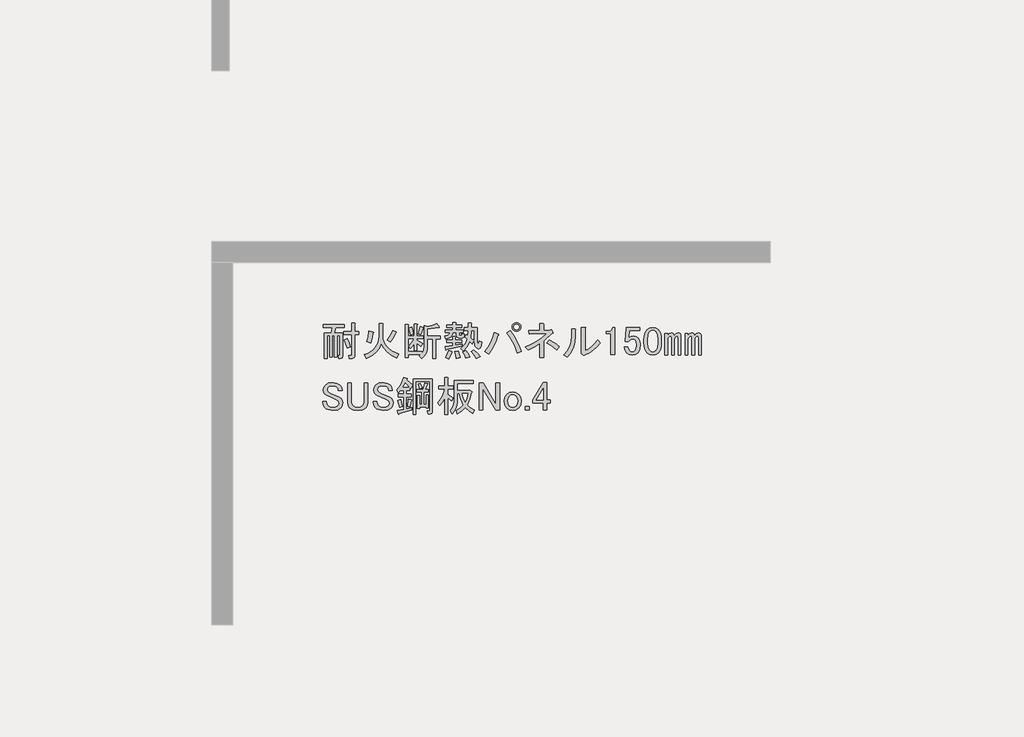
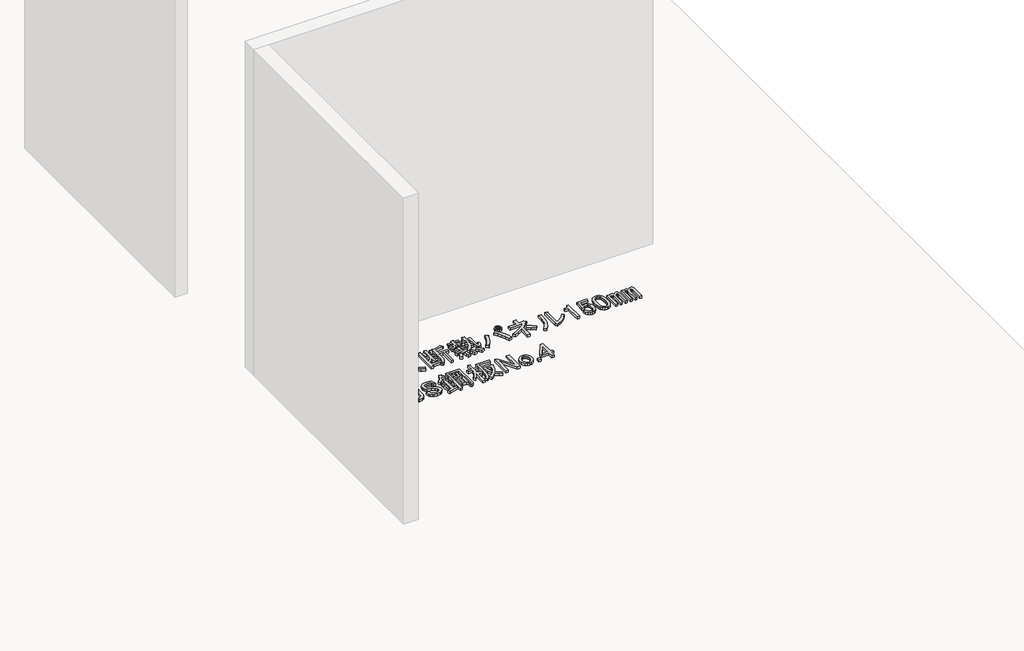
# One storey, part 114 of 117: 1 proxy.
"""IFC4 building model written with IfcOpenShell, lengths in millimetres."""

from ifc_helpers import new_model, si_unit, frame, origin, place, context, project, spatial, polyline, outline, extrude, element, save

model = new_model("IFC4")

# Units and contexts
model_context = context("Model", 3, world=origin())
ifc_project = project(units=[si_unit("LENGTHUNIT", "METRE", prefix="MILLI")], contexts=[model_context])

# Site, building, storey
site = spatial("IfcSite", under=ifc_project)
building = spatial("IfcBuilding", under=site)
storey = spatial("IfcBuildingStorey", under=building, Name="レベル 1", Elevation=500.0)

# Proxy
placement = place(None, origin())
element("IfcBuildingElementProxy", 1, Name="200㎜\u3000MS Pゴシック", ObjectType="200㎜\u3000MS Pゴシック", at=placement, inside=storey, context=model_context, shape_type="SweptSolid", body=[
    extrude(outline(polyline([(72978.5674486, 3229.3142262), (72971.0959694, 3259.7748726), (72960.176115, 3289.0860605), (72982.0158237, 3297.132269), (72994.372501, 3267.5337164), (73001.5566157, 3238.5098931), (72978.5674486, 3229.3142262)])), frame((0.0, 0.0, 500.0), z_axis=(0.0, 0.0, 1.0), x_axis=(1.0, 0.0, 0.0)), (0.0, 0.0, 1.0), 25.0),
    extrude(outline(polyline([(72887.7602388, 3320.121436), (72871.6678219, 3320.121436), (72871.6678219, 3164.9445585), (72852.1270299, 3164.9445585), (72852.1270299, 3320.121436), (72833.7356963, 3320.121436), (72833.7356963, 3152.3005167), (72814.1949043, 3152.3005167), (72814.1949043, 3338.5127697), (72865.9205301, 3338.5127697), (72871.6678219, 3377.5943537), (72804.9992375, 3377.5943537), (72804.9992375, 3399.4340623), (72960.176115, 3399.4340623), (72960.176115, 3377.5943537), (72895.8064473, 3377.5943537), (72885.4613221, 3338.5127697), (72946.3826148, 3338.5127697), (72946.3826148, 3170.6918503), (72942.3595106, 3158.6225376), (72930.2901979, 3154.5994334), (72919.9450727, 3154.5994334), (72915.3472393, 3176.439142), (72922.2439894, 3176.439142), (72925.6923645, 3177.5886004), (72926.8418228, 3181.0369755), (72926.8418228, 3320.121436), (72907.3010308, 3320.121436), (72907.3010308, 3164.9445585), (72887.7602388, 3164.9445585), (72887.7602388, 3320.121436)])), frame((0.0, 0.0, 500.0), z_axis=(0.0, 0.0, 1.0), x_axis=(1.0, 0.0, 0.0)), (0.0, 0.0, 1.0), 25.0),
    extrude(outline(polyline([(72956.72774, 3325.8687278), (72956.72774, 3347.7084365), (73013.0511992, 3347.7084365), (73013.0511992, 3409.7791875), (73034.8909079, 3409.7791875), (73039.7761059, 3407.4802708), (73036.0403663, 3402.8824374), (73036.0403663, 3347.7084365), (73064.7768251, 3347.7084365), (73064.7768251, 3325.8687278), (73036.0403663, 3325.8687278), (73036.0403663, 3172.990767), (73031.4425328, 3159.1972668), (73017.6490326, 3154.5994334), (72994.6598656, 3154.5994334), (72991.2114905, 3176.439142), (73008.4533658, 3176.439142), (73011.9017409, 3177.5886004), (73013.0511992, 3181.0369755), (73013.0511992, 3325.8687278), (72956.72774, 3325.8687278)])), frame((0.0, 0.0, 500.0), z_axis=(0.0, 0.0, 1.0), x_axis=(1.0, 0.0, 0.0)), (0.0, 0.0, 1.0), 25.0),
    extrude(outline(polyline([(73226.8504527, 3261.4990601), (73210.9017181, 3226.6561038), (73187.1941395, 3196.8420278), (73155.7277172, 3172.0568321), (73116.5024509, 3152.3005167), (73102.7089507, 3181.0369755), (73128.032955, 3190.71757), (73149.9804254, 3202.5174784), (73168.5513619, 3216.4367006), (73183.7457645, 3232.4752367), (73195.5636332, 3250.6330866), (73204.0049679, 3270.9102504), (73209.0697688, 3293.3067279), (73210.7580358, 3317.8225193), (73210.7580358, 3408.6297292), (73237.1955779, 3406.3308125), (73240.6439529, 3402.8824374), (73237.1955779, 3397.1351456), (73237.1955779, 3317.8225193), (73238.9916065, 3296.377937), (73244.3796926, 3276.2983364), (73253.3598359, 3257.5837176), (73265.9320367, 3240.2340806), (73282.0962947, 3224.2494254), (73301.8526102, 3209.629752), (73352.1414131, 3184.4853505), (73340.6468295, 3155.7488917), (73301.2060398, 3175.2896837), (73269.0930471, 3199.4283091), (73244.3078514, 3228.1647679), (73226.8504527, 3261.4990601)])), frame((0.0, 0.0, 500.0), z_axis=(0.0, 0.0, 1.0), x_axis=(1.0, 0.0, 0.0)), (0.0, 0.0, 1.0), 25.0),
    extrude(outline(polyline([(73330.3017044, 3337.3633113), (73310.1861832, 3297.9943628), (73293.5190371, 3271.8441853), (73270.5298701, 3286.7871438), (73290.3580266, 3318.3972485), (73308.4619957, 3358.0535617), (73333.7500794, 3345.4095198), (73336.3363607, 3341.6737801), (73330.3017044, 3337.3633113)])), frame((0.0, 0.0, 500.0), z_axis=(0.0, 0.0, 1.0), x_axis=(1.0, 0.0, 0.0)), (0.0, 0.0, 1.0), 25.0),
    extrude(outline(polyline([(73122.2497427, 3276.4420187), (73134.0316908, 3310.6384046), (73137.1927012, 3353.4557283), (73165.92916, 3346.5589781), (73170.5269934, 3342.8232385), (73165.92916, 3338.5127697), (73162.1934204, 3304.0290191), (73150.9862015, 3267.2463519), (73122.2497427, 3276.4420187)])), frame((0.0, 0.0, 500.0), z_axis=(0.0, 0.0, 1.0), x_axis=(1.0, 0.0, 0.0)), (0.0, 0.0, 1.0), 25.0),
    extrude(outline(polyline([(73647.5522095, 3381.0427287), (73645.828022, 3376.4448953), (73638.3565427, 3378.743812), (73561.3428331, 3366.0997701), (73561.3428331, 3316.673061), (73653.2995013, 3316.673061), (73653.2995013, 3294.8333523), (73622.2641258, 3294.8333523), (73622.2641258, 3154.5994334), (73599.2749588, 3154.5994334), (73599.2749588, 3294.8333523), (73561.3428331, 3294.8333523), (73561.3428331, 3245.4066432), (73558.7565518, 3217.6041193), (73550.997708, 3192.8189236), (73538.0663015, 3171.051056), (73519.9623325, 3152.3005167), (73502.7204572, 3171.8413086), (73513.0655823, 3181.0369755), (73423.4078309, 3181.0369755), (73423.4078309, 3159.1972668), (73400.4186638, 3159.1972668), (73400.4186638, 3398.284604), (73422.2583725, 3398.284604), (73427.1435705, 3395.9856873), (73423.4078309, 3391.3878539), (73423.4078309, 3315.5236026), (73465.9377899, 3315.5236026), (73465.9377899, 3402.8824374), (73484.3291235, 3402.8824374), (73489.2143215, 3400.5835207), (73485.4785819, 3395.9856873), (73485.4785819, 3315.5236026), (73529.1579993, 3315.5236026), (73529.1579993, 3297.132269), (73485.4785819, 3297.132269), (73485.4785819, 3287.9366022), (73525.7096242, 3261.4990601), (73511.916124, 3239.6593514), (73485.4785819, 3266.0968935), (73485.4785819, 3213.2218093), (73465.9377899, 3213.2218093), (73465.9377899, 3261.4990601), (73452.7190189, 3241.6709035), (73438.3507895, 3225.8658512), (73425.7067476, 3244.2571848), (73447.5464563, 3268.3958102), (73464.7883316, 3297.132269), (73423.4078309, 3297.132269), (73423.4078309, 3202.8766841), (73521.1117908, 3202.8766841), (73521.1117908, 3189.0831839), (73534.0431973, 3213.2218093), (73538.3536661, 3246.5561015), (73538.3536661, 3391.3878539), (73560.1933748, 3385.6405621), (73596.4013129, 3393.1120414), (73626.8619592, 3406.3308125), (73647.5522095, 3381.0427287)])), frame((0.0, 0.0, 500.0), z_axis=(0.0, 0.0, 1.0), x_axis=(1.0, 0.0, 0.0)), (0.0, 0.0, 1.0), 25.0),
    extrude(outline(polyline([(73493.5247904, 3332.7654779), (73510.7666656, 3385.6405621), (73531.456916, 3379.8932704), (73533.1811035, 3376.7322599), (73529.1579993, 3374.1459786), (73511.916124, 3325.8687278), (73493.5247904, 3332.7654779)])), frame((0.0, 0.0, 500.0), z_axis=(0.0, 0.0, 1.0), x_axis=(1.0, 0.0, 0.0)), (0.0, 0.0, 1.0), 25.0),
    extrude(outline(polyline([(73439.5002478, 3324.7192695), (73426.8562059, 3375.2954369), (73446.3969979, 3382.1921871), (73454.1558418, 3358.0535617), (73459.0410398, 3331.6160196), (73439.5002478, 3324.7192695)])), frame((0.0, 0.0, 500.0), z_axis=(0.0, 0.0, 1.0), x_axis=(1.0, 0.0, 0.0)), (0.0, 0.0, 1.0), 25.0),
    extrude(outline(polyline([(73770.5442532, 3340.8116864), (73745.2561695, 3340.8116864), (73740.6583361, 3323.3542877), (73730.3132109, 3310.0636755), (73714.220794, 3300.9398498), (73692.3810853, 3295.9828107), (73687.7832519, 3315.5236026), (73713.0713356, 3324.1445403), (73720.5428149, 3331.4723373), (73724.5659191, 3340.8116864), (73688.9327102, 3340.8116864), (73688.9327102, 3359.20302), (73742.9572528, 3359.20302), (73742.9572528, 3376.4448953), (73699.2778354, 3376.4448953), (73699.2778354, 3394.8362289), (73742.9572528, 3394.8362289), (73742.9572528, 3413.2275626), (73764.7969614, 3413.2275626), (73769.6821594, 3410.9286459), (73765.9464198, 3406.3308125), (73765.9464198, 3394.8362289), (73808.4763788, 3394.8362289), (73808.4763788, 3376.4448953), (73765.9464198, 3376.4448953), (73765.9464198, 3359.20302), (73818.821504, 3359.20302), (73818.821504, 3340.8116864), (73790.0850452, 3340.8116864), (73790.0850452, 3328.1676445), (73791.5218681, 3322.9950819), (73795.832337, 3321.2708944), (73806.1774621, 3321.2708944), (73809.9132018, 3324.4319049), (73809.6258372, 3333.9149363), (73829.1666292, 3331.6160196), (73826.2929833, 3310.0636755), (73820.9767384, 3304.6755894), (73813.0742122, 3302.8795608), (73788.9355868, 3302.8795608), (73775.1420866, 3307.7647588), (73770.5442532, 3322.4203528), (73770.5442532, 3340.8116864)])), frame((0.0, 0.0, 500.0), z_axis=(0.0, 0.0, 1.0), x_axis=(1.0, 0.0, 0.0)), (0.0, 0.0, 1.0), 25.0),
    extrude(outline(polyline([(73901.5825053, 3358.0535617), (73879.7427966, 3358.0535617), (73875.1449632, 3300.5806441), (73894.6857552, 3282.1893104), (73884.3406301, 3260.3496017), (73868.2482131, 3276.4420187), (73848.9947857, 3238.7972576), (73818.821504, 3206.3250592), (73801.5796287, 3227.0153095), (73816.6662696, 3238.9409399), (73829.7413583, 3254.0275808), (73840.804895, 3272.2752321), (73849.8568795, 3293.683894), (73832.6150042, 3308.6268525), (73840.6612127, 3325.8687278), (73854.4547129, 3315.5236026), (73856.7536296, 3358.0535617), (73829.1666292, 3358.0535617), (73829.1666292, 3376.4448953), (73856.7536296, 3376.4448953), (73856.7536296, 3410.9286459), (73878.5933383, 3410.9286459), (73883.4785363, 3408.6297292), (73879.7427966, 3404.0318957), (73879.7427966, 3376.4448953), (73921.1232973, 3376.4448953), (73921.1232973, 3279.8903937), (73924.5716724, 3255.7517683), (73927.804524, 3253.7402162), (73930.6063287, 3256.9012267), (73934.9167975, 3278.7409354), (73954.4575895, 3271.8441853), (73949.9315973, 3245.0474374), (73942.1009122, 3229.0268616), (73930.9655345, 3223.7824579), (73916.5254639, 3229.3142262), (73909.9879195, 3236.6420232), (73905.318245, 3248.280289), (73901.5825053, 3284.4882271), (73901.5825053, 3358.0535617)])), frame((0.0, 0.0, 500.0), z_axis=(0.0, 0.0, 1.0), x_axis=(1.0, 0.0, 0.0)), (0.0, 0.0, 1.0), 25.0),
    extrude(outline(polyline([(73700.4272937, 3218.9691011), (73698.4157416, 3214.0839031), (73694.680002, 3215.520726), (73688.9327102, 3239.6593514), (73744.1067111, 3247.7055599), (73744.1067111, 3270.6947269), (73700.4272937, 3270.6947269), (73700.4272937, 3289.0860605), (73744.1067111, 3289.0860605), (73744.1067111, 3312.0752276), (73762.4980447, 3312.0752276), (73767.3832427, 3309.7763109), (73763.6475031, 3305.1784775), (73763.6475031, 3289.0860605), (73808.4763788, 3289.0860605), (73808.4763788, 3270.6947269), (73763.6475031, 3270.6947269), (73763.6475031, 3251.1539349), (73814.2236706, 3260.3496017), (73814.2236706, 3244.2571848), (73700.4272937, 3218.9691011)])), frame((0.0, 0.0, 500.0), z_axis=(0.0, 0.0, 1.0), x_axis=(1.0, 0.0, 0.0)), (0.0, 0.0, 1.0), 25.0),
    extrude(outline(polyline([(73898.1341303, 3214.3712677), (73922.8474849, 3193.1062881), (73941.8135477, 3168.3929336), (73915.3760056, 3153.449975), (73896.1225782, 3183.0485276), (73877.4438799, 3202.8766841), (73898.1341303, 3214.3712677)])), frame((0.0, 0.0, 500.0), z_axis=(0.0, 0.0, 1.0), x_axis=(1.0, 0.0, 0.0)), (0.0, 0.0, 1.0), 25.0),
    extrude(outline(polyline([(73839.5117543, 3155.7488917), (73831.1781813, 3180.4622463), (73817.6720456, 3201.7272258), (73838.362296, 3209.7734343), (73855.3168067, 3188.2210902), (73867.0987548, 3164.9445585), (73839.5117543, 3155.7488917)])), frame((0.0, 0.0, 500.0), z_axis=(0.0, 0.0, 1.0), x_axis=(1.0, 0.0, 0.0)), (0.0, 0.0, 1.0), 25.0),
    extrude(outline(polyline([(73738.3594193, 3204.0261425), (73741.8077944, 3199.1409445), (73736.0605026, 3195.979934), (73726.2901067, 3170.4044857), (73715.3702523, 3151.1510583), (73692.3810853, 3162.6456418), (73705.0251271, 3186.209538), (73715.3702523, 3213.2218093), (73738.3594193, 3204.0261425)])), frame((0.0, 0.0, 500.0), z_axis=(0.0, 0.0, 1.0), x_axis=(1.0, 0.0, 0.0)), (0.0, 0.0, 1.0), 25.0),
    extrude(outline(polyline([(73783.1882951, 3208.6239759), (73793.2460557, 3181.32434), (73798.1312537, 3159.1972668), (73769.3947949, 3153.449975), (73766.8085136, 3175.0023191), (73759.0496697, 3205.1756008), (73783.1882951, 3208.6239759)])), frame((0.0, 0.0, 500.0), z_axis=(0.0, 0.0, 1.0), x_axis=(1.0, 0.0, 0.0)), (0.0, 0.0, 1.0), 25.0),
    extrude(outline(polyline([(74206.1889686, 3350.0073532), (74193.5449268, 3352.3062699), (74183.1998016, 3359.20302), (74176.3030515, 3369.5481452), (74174.0041348, 3382.1921871), (74176.3030515, 3394.8362289), (74183.1998016, 3405.1813541), (74193.5449268, 3412.0781042), (74206.1889686, 3414.3770209), (74218.8330105, 3412.0781042), (74229.1781357, 3405.1813541), (74236.0748858, 3394.8362289), (74238.3738025, 3382.1921871), (74236.0748858, 3369.5481452), (74229.1781357, 3359.20302), (74218.8330105, 3352.3062699), (74206.1889686, 3350.0073532)]), holes=[polyline([(74206.1889686, 3361.5019367), (74214.5225417, 3362.9387597), (74221.1319272, 3367.2492285), (74225.442396, 3373.858614), (74226.879219, 3382.1921871), (74225.442396, 3390.5257601), (74221.1319272, 3397.1351456), (74214.5225417, 3401.4456145), (74206.1889686, 3402.8824374), (74197.8553956, 3401.4456145), (74191.2460101, 3397.1351456), (74186.9355412, 3390.5257601), (74185.4987183, 3382.1921871), (74186.9355412, 3373.858614), (74191.2460101, 3367.2492285), (74197.8553956, 3362.9387597), (74206.1889686, 3361.5019367)])]), frame((0.0, 0.0, 500.0), z_axis=(0.0, 0.0, 1.0), x_axis=(1.0, 0.0, 0.0)), (0.0, 0.0, 1.0), 25.0),
    extrude(outline(polyline([(74160.2106345, 3355.754645), (74186.8637001, 3319.0438188), (74209.3499791, 3281.3272167), (74227.6694716, 3242.6048384), (74241.8221775, 3202.8766841), (74210.786802, 3192.531559), (74195.3409554, 3235.6362472), (74177.7398744, 3274.143102), (74157.983559, 3308.0521234), (74136.0720092, 3337.3633113), (74160.2106345, 3355.754645)])), frame((0.0, 0.0, 500.0), z_axis=(0.0, 0.0, 1.0), x_axis=(1.0, 0.0, 0.0)), (0.0, 0.0, 1.0), 25.0),
    extrude(outline(polyline([(74072.8517998, 3329.3171029), (74076.874904, 3323.8571757), (74070.5528831, 3318.9719777), (74058.6272527, 3283.5542922), (74043.5406118, 3249.717112), (74025.2929605, 3217.460437), (74003.8842987, 3186.7842672), (73977.4467566, 3204.0261425), (74000.6514471, 3235.4925649), (74019.689351, 3268.9705394), (74034.5604684, 3304.460066), (74045.2647993, 3341.9611447), (74072.8517998, 3329.3171029)])), frame((0.0, 0.0, 500.0), z_axis=(0.0, 0.0, 1.0), x_axis=(1.0, 0.0, 0.0)), (0.0, 0.0, 1.0), 25.0),
    extrude(outline(polyline([(74449.8741393, 3360.3524784), (74456.7708894, 3362.6513951), (74469.4149312, 3345.4095198), (74470.5643896, 3339.3748634), (74464.8170978, 3337.3633113), (74401.5968885, 3281.0398521), (74401.5968885, 3160.3467251), (74375.1593464, 3160.3467251), (74375.1593464, 3262.6485184), (74334.9283041, 3238.5098931), (74290.0994283, 3216.6701844), (74270.5586363, 3237.3604347), (74316.1059235, 3256.8293855), (74357.3427419, 3279.6030291), (74394.2690915, 3305.6813655), (74426.8849722, 3335.0643946), (74296.9961784, 3329.3171029), (74293.5478034, 3354.6051866), (74375.1593464, 3356.9041033), (74375.1593464, 3408.6297292), (74398.1485134, 3408.6297292), (74404.1831698, 3405.1813541), (74401.5968885, 3399.4340623), (74401.5968885, 3358.0535617), (74449.8741393, 3360.3524784)])), frame((0.0, 0.0, 500.0), z_axis=(0.0, 0.0, 1.0), x_axis=(1.0, 0.0, 0.0)), (0.0, 0.0, 1.0), 25.0),
    extrude(outline(polyline([(74495.8524733, 3216.6701844), (74458.7824415, 3245.9813723), (74425.7355139, 3267.2463519), (74442.9773892, 3289.0860605), (74481.7716085, 3265.8095289), (74515.3932653, 3239.6593514), (74495.8524733, 3216.6701844)])), frame((0.0, 0.0, 500.0), z_axis=(0.0, 0.0, 1.0), x_axis=(1.0, 0.0, 0.0)), (0.0, 0.0, 1.0), 25.0),
    extrude(outline(polyline([(74702.8469334, 3209.7734343), (74727.6321291, 3221.9864292), (74751.4115488, 3239.0846222), (74774.1851924, 3261.0680132), (74795.9530599, 3287.9366022), (74812.0454768, 3266.0968935), (74788.7689452, 3238.2943696), (74762.6187677, 3214.6586322), (74733.5949443, 3195.1896814), (74701.697475, 3179.8875171), (74692.5018082, 3175.2896837), (74674.1104746, 3189.0831839), (74676.4093913, 3194.8304757), (74676.4093913, 3379.8932704), (74700.5480167, 3379.8932704), (74706.2953084, 3376.4448953), (74702.8469334, 3370.6976035), (74702.8469334, 3209.7734343)])), frame((0.0, 0.0, 500.0), z_axis=(0.0, 0.0, 1.0), x_axis=(1.0, 0.0, 0.0)), (0.0, 0.0, 1.0), 25.0),
    extrude(outline(polyline([(74548.8195142, 3178.7380587), (74573.9639157, 3207.9774056), (74591.9242024, 3240.5214452), (74602.7003745, 3276.3701775), (74606.2924318, 3315.5236026), (74606.2924318, 3367.2492285), (74630.4310572, 3367.2492285), (74636.178349, 3363.8008534), (74632.7299739, 3358.0535617), (74632.7299739, 3316.673061), (74628.9223931, 3270.9102504), (74617.4996507, 3230.17632), (74598.4617468, 3194.4712699), (74571.8086812, 3163.7951002), (74548.8195142, 3178.7380587)])), frame((0.0, 0.0, 500.0), z_axis=(0.0, 0.0, 1.0), x_axis=(1.0, 0.0, 0.0)), (0.0, 0.0, 1.0), 25.0),
    extrude(outline(polyline([(74891.3581031, 3356.9041033), (74899.4043116, 3367.8239577), (74902.8526866, 3379.8932704), (74916.6461869, 3379.8932704), (74916.6461869, 3181.0369755), (74890.2086448, 3181.0369755), (74890.2086448, 3333.9149363), (74855.7248942, 3333.9149363), (74855.7248942, 3347.7084365), (74866.0700194, 3347.7084365), (74880.4382488, 3350.0073532), (74891.3581031, 3356.9041033)])), frame((0.0, 0.0, 500.0), z_axis=(0.0, 0.0, 1.0), x_axis=(1.0, 0.0, 0.0)), (0.0, 0.0, 1.0), 25.0),
    extrude(outline(polyline([(75000.5566466, 3376.4448953), (75099.4100648, 3376.4448953), (75099.4100648, 3354.6051866), (75022.3963552, 3354.6051866), (75022.3963552, 3351.1568116), (75018.9479802, 3308.6268525), (75017.7985218, 3301.7301024), (75033.3162096, 3312.0752276), (75049.9833557, 3315.5236026), (75070.9609706, 3311.787863), (75087.9154813, 3300.5806441), (75099.984794, 3280.7524875), (75104.0078982, 3253.4528516), (75098.8353357, 3218.9691011), (75092.3696324, 3205.1756008), (75083.3176479, 3193.6810173), (75065.2136789, 3181.6117046), (75043.0866056, 3177.5886004), (75022.1089907, 3181.32434), (75005.15448, 3192.531559), (74993.0851673, 3211.2102572), (74986.7631463, 3237.3604347), (75013.2006884, 3237.3604347), (75017.2237927, 3218.6817365), (75024.695272, 3206.3250592), (75032.4541158, 3201.1524966), (75041.9371472, 3199.4283091), (75054.2938245, 3201.4398612), (75063.7768559, 3207.4745175), (75073.2598873, 3224.4290282), (75076.4208978, 3250.0044766), (75073.8346165, 3274.143102), (75066.0757726, 3289.0860605), (75058.6042933, 3294.2586231), (75049.9833557, 3295.9828107), (75037.0519492, 3293.3965294), (75025.8447303, 3285.6376855), (75016.6490635, 3275.2925603), (74993.6598964, 3275.2925603), (74994.8093548, 3283.3387688), (75000.5566466, 3371.8470619), (75000.5566466, 3376.4448953)])), frame((0.0, 0.0, 500.0), z_axis=(0.0, 0.0, 1.0), x_axis=(1.0, 0.0, 0.0)), (0.0, 0.0, 1.0), 25.0),
    extrude(outline(polyline([(75129.295982, 3290.2355189), (75130.7328049, 3313.7994151), (75135.0432737, 3333.9149363), (75142.2273884, 3350.5820824), (75152.285149, 3363.8008534), (75170.3891181, 3375.8701661), (75192.5161914, 3379.8932704), (75214.6432646, 3375.8701661), (75232.7472337, 3363.8008534), (75242.8049943, 3350.5820824), (75249.989109, 3333.9149363), (75254.2995778, 3313.7994151), (75255.7364007, 3290.2355189), (75255.7364007, 3267.2463519), (75254.2995778, 3244.1853437), (75249.989109, 3224.4290282), (75242.8049943, 3207.9774056), (75232.7472337, 3194.8304757), (75214.6432646, 3182.761163), (75192.5161914, 3178.7380587), (75170.3891181, 3182.761163), (75152.285149, 3194.8304757), (75142.2273884, 3207.9774056), (75135.0432737, 3224.4290282), (75130.7328049, 3244.1853437), (75129.295982, 3267.2463519), (75129.295982, 3290.2355189)]), holes=[polyline([(75192.5161914, 3358.0535617), (75181.596337, 3355.754645), (75171.825941, 3348.8578948), (75165.2883966, 3339.7340692), (75160.6187221, 3327.3055507), (75156.8829824, 3292.5344356), (75156.8829824, 3266.0968935), (75160.9060867, 3231.9005075), (75165.934967, 3219.3283068), (75172.9753994, 3209.7734343), (75182.4584308, 3202.8766841), (75192.5161914, 3200.5777674), (75203.4360457, 3202.8766841), (75213.2064417, 3209.7734343), (75219.7439861, 3218.8972599), (75224.4136606, 3231.3257784), (75228.1494003, 3266.0968935), (75228.1494003, 3292.5344356), (75224.4136606, 3327.3055507), (75219.7439861, 3339.7340692), (75213.2064417, 3348.8578948), (75203.4360457, 3355.754645), (75192.5161914, 3358.0535617)])]), frame((0.0, 0.0, 500.0), z_axis=(0.0, 0.0, 1.0), x_axis=(1.0, 0.0, 0.0)), (0.0, 0.0, 1.0), 25.0),
    extrude(outline(polyline([(75522.4107384, 3339.662228), (75530.7443114, 3338.2254051), (75537.353697, 3333.9149363), (75542.5262595, 3325.2939986), (75544.2504471, 3313.2246859), (75544.2504471, 3178.7380587), (75524.7096551, 3178.7380587), (75524.7096551, 3302.8795608), (75522.1233738, 3312.3625922), (75514.3645299, 3315.5236026), (75504.0194048, 3310.9257692), (75497.9847484, 3302.3048316), (75495.9731963, 3292.5344356), (75495.9731963, 3178.7380587), (75476.4324043, 3178.7380587), (75476.4324043, 3302.8795608), (75473.846123, 3312.3625922), (75466.0872791, 3315.5236026), (75455.742154, 3310.9257692), (75449.7074976, 3302.3048316), (75447.6959455, 3292.5344356), (75447.6959455, 3178.7380587), (75428.1551535, 3178.7380587), (75428.1551535, 3336.213853), (75447.6959455, 3336.213853), (75447.6959455, 3318.9719777), (75459.7652582, 3334.4896654), (75472.9840292, 3339.662228), (75482.1796961, 3338.2254051), (75489.0764462, 3333.9149363), (75495.9731963, 3320.121436), (75508.9046028, 3334.77703), (75522.4107384, 3339.662228)])), frame((0.0, 0.0, 500.0), z_axis=(0.0, 0.0, 1.0), x_axis=(1.0, 0.0, 0.0)), (0.0, 0.0, 1.0), 25.0),
    extrude(outline(polyline([(75300.5652764, 3178.7380587), (75281.0244845, 3178.7380587), (75281.0244845, 3336.213853), (75300.5652764, 3336.213853), (75300.5652764, 3318.9719777), (75312.6345891, 3334.4896654), (75325.8533602, 3339.662228), (75335.049027, 3338.2254051), (75341.9457771, 3333.9149363), (75348.8425272, 3320.121436), (75361.7739337, 3334.77703), (75375.2800693, 3339.662228), (75383.6136424, 3338.2254051), (75390.2230279, 3333.9149363), (75395.3955905, 3325.2939986), (75397.119778, 3313.2246859), (75397.119778, 3178.7380587), (75377.578986, 3178.7380587), (75377.578986, 3302.8795608), (75374.9927047, 3312.3625922), (75367.2338609, 3315.5236026), (75356.8887357, 3310.9257692), (75350.8540793, 3302.3048316), (75348.8425272, 3292.5344356), (75348.8425272, 3178.7380587), (75329.3017352, 3178.7380587), (75329.3017352, 3302.8795608), (75326.715454, 3312.3625922), (75318.9566101, 3315.5236026), (75308.6114849, 3310.9257692), (75302.5768286, 3302.3048316), (75300.5652764, 3292.5344356), (75300.5652764, 3178.7380587)])), frame((0.0, 0.0, 500.0), z_axis=(0.0, 0.0, 1.0), x_axis=(1.0, 0.0, 0.0)), (0.0, 0.0, 1.0), 25.0),
    extrude(outline(polyline([(72807.2981542, 2924.7192695), (72811.3212584, 2945.1221552), (72823.3905711, 2962.6513951), (72843.7934569, 2974.7207078), (72872.8172803, 2978.743812), (72904.1400204, 2974.1459786), (72926.8418228, 2960.3524784), (72938.9111355, 2942.8232385), (72942.9342397, 2922.4203528), (72916.4966976, 2922.4203528), (72914.1977809, 2935.0643946), (72907.3010308, 2945.4095198), (72894.0822598, 2953.1683637), (72875.116197, 2955.754645), (72854.7133112, 2953.4557283), (72841.7819048, 2946.5589781), (72835.7472484, 2937.9380405), (72833.7356963, 2928.1676445), (72838.3335297, 2913.2246859), (72859.02378, 2901.7301024), (72918.7956143, 2875.2925603), (72936.0374896, 2863.7979768), (72945.520521, 2850.0044766), (72948.6815315, 2833.9120596), (72944.6584273, 2812.6470801), (72932.5891146, 2794.8304757), (72922.6031951, 2787.2871552), (72909.8873121, 2781.8990692), (72876.2656553, 2777.5886004), (72842.6439985, 2782.761163), (72829.0660217, 2789.2268662), (72817.6432794, 2798.2788507), (72806.4360604, 2816.6701844), (72802.7003208, 2841.9582681), (72829.1378629, 2841.9582681), (72831.4367796, 2824.1416637), (72838.3335297, 2812.072351), (72854.4259466, 2802.5893196), (72877.4151137, 2799.4283091), (72898.3927286, 2802.301955), (72913.0483226, 2810.9228926), (72919.9450727, 2820.1185594), (72922.2439894, 2829.3142262), (72920.5198019, 2838.7972576), (72915.3472393, 2846.5561015), (72896.9559057, 2858.050685), (72867.0699885, 2871.8441853), (72833.7356963, 2886.7871438), (72817.6432794, 2897.132269), (72809.8844355, 2909.2015817), (72807.2981542, 2924.7192695)])), frame((0.0, 0.0, 500.0), z_axis=(0.0, 0.0, 1.0), x_axis=(1.0, 0.0, 0.0)), (0.0, 0.0, 1.0), 25.0),
    extrude(outline(polyline([(72982.7054987, 2976.4448953), (73009.1430408, 2976.4448953), (73009.1430408, 2838.5098931), (73011.7293221, 2823.8542991), (73019.488166, 2812.072351), (73035.0058537, 2802.5893196), (73056.2708332, 2799.4283091), (73077.5358128, 2802.5893196), (73093.0535005, 2812.072351), (73100.8123444, 2823.8542991), (73103.3986257, 2838.5098931), (73103.3986257, 2976.4448953), (73129.8361678, 2976.4448953), (73129.8361678, 2837.3604347), (73125.8130635, 2814.3712677), (73113.7437508, 2795.979934), (73103.2549434, 2787.9337256), (73090.1798546, 2782.1864338), (73056.2708332, 2777.5886004), (73022.3618119, 2782.1864338), (73009.2867231, 2787.9337256), (72998.7979156, 2795.979934), (72986.7286029, 2814.3712677), (72982.7054987, 2837.3604347), (72982.7054987, 2976.4448953)])), frame((0.0, 0.0, 500.0), z_axis=(0.0, 0.0, 1.0), x_axis=(1.0, 0.0, 0.0)), (0.0, 0.0, 1.0), 25.0),
    extrude(outline(polyline([(73172.1822135, 2924.7192695), (73176.2053177, 2945.1221552), (73188.2746304, 2962.6513951), (73208.6775161, 2974.7207078), (73237.7013395, 2978.743812), (73269.0240796, 2974.1459786), (73291.7258821, 2960.3524784), (73303.7951948, 2942.8232385), (73307.818299, 2922.4203528), (73281.3807569, 2922.4203528), (73279.0818402, 2935.0643946), (73272.1850901, 2945.4095198), (73258.966319, 2953.1683637), (73240.0002562, 2955.754645), (73219.5973705, 2953.4557283), (73206.665964, 2946.5589781), (73200.6313077, 2937.9380405), (73198.6197556, 2928.1676445), (73203.217589, 2913.2246859), (73223.9078393, 2901.7301024), (73283.6796736, 2875.2925603), (73300.9215489, 2863.7979768), (73310.4045803, 2850.0044766), (73313.5655908, 2833.9120596), (73309.5424865, 2812.6470801), (73297.4731738, 2794.8304757), (73287.4872544, 2787.2871552), (73274.7713714, 2781.8990692), (73241.1497146, 2777.5886004), (73207.5280578, 2782.761163), (73193.950081, 2789.2268662), (73182.5273386, 2798.2788507), (73171.3201197, 2816.6701844), (73167.5843801, 2841.9582681), (73194.0219222, 2841.9582681), (73196.3208389, 2824.1416637), (73203.217589, 2812.072351), (73219.3100059, 2802.5893196), (73242.2991729, 2799.4283091), (73263.2767879, 2802.301955), (73277.9323819, 2810.9228926), (73284.829132, 2820.1185594), (73287.1280487, 2829.3142262), (73285.4038611, 2838.7972576), (73280.2312986, 2846.5561015), (73261.8399649, 2858.050685), (73231.9540478, 2871.8441853), (73198.6197556, 2886.7871438), (73182.5273386, 2897.132269), (73174.7684948, 2909.2015817), (73172.1822135, 2924.7192695)])), frame((0.0, 0.0, 500.0), z_axis=(0.0, 0.0, 1.0), x_axis=(1.0, 0.0, 0.0)), (0.0, 0.0, 1.0), 25.0),
    extrude(outline(polyline([(73441.8451429, 2937.3633113), (73400.4646422, 2981.0427287), (73378.6249335, 2941.9611447), (73433.7989344, 2941.9611447), (73433.7989344, 2923.5698111), (73407.3613923, 2923.5698111), (73407.3613923, 2894.8333523), (73445.2935179, 2894.8333523), (73445.2935179, 2876.4420187), (73407.3613923, 2876.4420187), (73407.3613923, 2789.0831839), (73446.4429763, 2799.4283091), (73448.741893, 2779.8875171), (73356.7852248, 2754.5994334), (73354.4863081, 2748.8521416), (73349.8884747, 2752.3005167), (73342.9917246, 2775.2896837), (73387.8206003, 2784.4853505), (73387.8206003, 2876.4420187), (73349.8884747, 2876.4420187), (73349.8884747, 2894.8333523), (73387.8206003, 2894.8333523), (73387.8206003, 2923.5698111), (73365.9808916, 2923.5698111), (73351.037933, 2905.1784775), (73338.3938912, 2925.8687278), (73366.5556208, 2963.5134888), (73391.2689754, 3014.3770209), (73413.1086841, 3008.6297292), (73416.5570591, 3004.8939895), (73410.8097674, 3002.8824374), (73409.660309, 2999.4340623), (73454.4891847, 2961.5019367), (73441.8451429, 2937.3633113)])), frame((0.0, 0.0, 500.0), z_axis=(0.0, 0.0, 1.0), x_axis=(1.0, 0.0, 0.0)), (0.0, 0.0, 1.0), 25.0),
    extrude(outline(polyline([(73509.6631856, 2974.1459786), (73516.8473003, 2958.9156554), (73522.3072275, 2938.5127697), (73505.0653522, 2932.7654779), (73493.5707687, 2969.5481452), (73509.6631856, 2974.1459786)])), frame((0.0, 0.0, 500.0), z_axis=(0.0, 0.0, 1.0), x_axis=(1.0, 0.0, 0.0)), (0.0, 0.0, 1.0), 25.0),
    extrude(outline(polyline([(73562.5382698, 2972.9965202), (73565.1245511, 2969.5481452), (73559.0898948, 2966.0997701), (73546.4458529, 2928.1676445), (73567.1361032, 2928.1676445), (73567.1361032, 2909.7763109), (73536.1007277, 2909.7763109), (73536.1007277, 2821.2680178), (73551.0436863, 2821.2680178), (73551.0436863, 2889.0860605), (73567.1361032, 2889.0860605), (73567.1361032, 2794.8304757), (73551.0436863, 2794.8304757), (73551.0436863, 2802.8766841), (73505.0653522, 2802.8766841), (73505.0653522, 2790.2326423), (73488.9729353, 2790.2326423), (73488.9729353, 2886.7871438), (73505.0653522, 2886.7871438), (73505.0653522, 2821.2680178), (73520.0083108, 2821.2680178), (73520.0083108, 2909.7763109), (73484.3751019, 2909.7763109), (73484.3751019, 2928.1676445), (73530.353436, 2928.1676445), (73540.6985611, 2977.5943537), (73562.5382698, 2972.9965202)])), frame((0.0, 0.0, 500.0), z_axis=(0.0, 0.0, 1.0), x_axis=(1.0, 0.0, 0.0)), (0.0, 0.0, 1.0), 25.0),
    extrude(outline(polyline([(73456.7881014, 3006.3308125), (73597.0220204, 3006.3308125), (73597.0220204, 2766.0940169), (73593.2862807, 2754.8867979), (73582.0790618, 2751.1510583), (73565.9866449, 2751.1510583), (73561.3888115, 2772.990767), (73572.883395, 2772.990767), (73576.33177, 2774.1402253), (73577.4812284, 2777.5886004), (73577.4812284, 2987.9394788), (73476.3288934, 2987.9394788), (73476.3288934, 2748.8521416), (73456.7881014, 2748.8521416), (73456.7881014, 3006.3308125)])), frame((0.0, 0.0, 500.0), z_axis=(0.0, 0.0, 1.0), x_axis=(1.0, 0.0, 0.0)), (0.0, 0.0, 1.0), 25.0),
    extrude(outline(polyline([(73445.2935179, 2858.050685), (73447.8797992, 2854.8896746), (73444.1440596, 2852.3033933), (73436.0978511, 2805.1756008), (73417.7065175, 2807.4745175), (73423.4538092, 2861.4990601), (73445.2935179, 2858.050685)])), frame((0.0, 0.0, 500.0), z_axis=(0.0, 0.0, 1.0), x_axis=(1.0, 0.0, 0.0)), (0.0, 0.0, 1.0), 25.0),
    extrude(outline(polyline([(73368.2798083, 2856.9012267), (73379.7743918, 2805.1756008), (73359.0841415, 2799.4283091), (73347.589558, 2851.1539349), (73368.2798083, 2856.9012267)])), frame((0.0, 0.0, 500.0), z_axis=(0.0, 0.0, 1.0), x_axis=(1.0, 0.0, 0.0)), (0.0, 0.0, 1.0), 25.0),
    extrude(outline(polyline([(73768.2913148, 2777.5886004), (73797.0277736, 2794.8304757), (73818.8674823, 2816.6701844), (73801.0508779, 2858.6254142), (73791.2804819, 2899.4311857), (73778.63644, 2899.4311857), (73778.63644, 2875.2925603), (73776.193841, 2833.5528539), (73768.866044, 2799.1409445), (73756.653049, 2772.0568321), (73739.554856, 2752.3005167), (73725.7613558, 2775.2896837), (73738.8364446, 2792.6752413), (73748.1757937, 2814.9459968), (73753.7794031, 2842.1019504), (73755.647273, 2874.143102), (73755.647273, 2994.8362289), (73892.4328169, 2994.8362289), (73892.4328169, 2972.9965202), (73778.63644, 2972.9965202), (73778.63644, 2921.2708944), (73857.9490663, 2921.2708944), (73863.6963581, 2927.0181862), (73883.23715, 2913.2246859), (73884.673973, 2909.4889463), (73879.788775, 2905.1784775), (73867.4320977, 2858.6254142), (73848.7533995, 2817.8196427), (73867.7194623, 2799.4283091), (73899.329567, 2781.0369755), (73890.1339002, 2756.8983501), (73862.2595351, 2772.990767), (73833.8104409, 2798.2788507), (73809.3844509, 2773.8528608), (73777.4869817, 2753.449975), (73768.2913148, 2777.5886004)]), holes=[polyline([(73813.1201906, 2899.4311857), (73821.166399, 2866.3842581), (73833.8104409, 2838.5098931), (73846.4544828, 2864.6600706), (73854.5006912, 2899.4311857), (73813.1201906, 2899.4311857)])]), frame((0.0, 0.0, 500.0), z_axis=(0.0, 0.0, 1.0), x_axis=(1.0, 0.0, 0.0)), (0.0, 0.0, 1.0), 25.0),
    extrude(outline(polyline([(73685.5303135, 2748.8521416), (73685.5303135, 2868.3958102), (73667.713709, 2834.1994242), (73648.7476462, 2812.072351), (73637.2530627, 2832.7626013), (73654.494938, 2855.4644037), (73668.2884382, 2879.8903937), (73678.6335634, 2906.0405712), (73685.5303135, 2933.9149363), (73644.1498128, 2933.9149363), (73644.1498128, 2955.754645), (73685.5303135, 2955.754645), (73685.5303135, 3015.5264793), (73707.3700222, 3015.5264793), (73712.2552202, 3013.2275626), (73708.5194805, 3008.6297292), (73708.5194805, 2955.754645), (73746.4516061, 2955.754645), (73746.4516061, 2933.9149363), (73708.5194805, 2933.9149363), (73708.5194805, 2893.683894), (73746.4516061, 2867.2463519), (73736.106481, 2844.2571848), (73708.5194805, 2867.2463519), (73708.5194805, 2748.8521416), (73685.5303135, 2748.8521416)])), frame((0.0, 0.0, 500.0), z_axis=(0.0, 0.0, 1.0), x_axis=(1.0, 0.0, 0.0)), (0.0, 0.0, 1.0), 25.0),
    extrude(outline(polyline([(73936.1122342, 2976.4448953), (73964.848693, 2976.4448953), (74056.8053612, 2821.2680178), (74056.8053612, 2976.4448953), (74083.2429033, 2976.4448953), (74083.2429033, 2779.8875171), (74054.5064445, 2779.8875171), (73962.5497763, 2935.0643946), (73962.5497763, 2779.8875171), (73936.1122342, 2779.8875171), (73936.1122342, 2976.4448953)])), frame((0.0, 0.0, 500.0), z_axis=(0.0, 0.0, 1.0), x_axis=(1.0, 0.0, 0.0)), (0.0, 0.0, 1.0), 25.0),
    extrude(outline(polyline([(74116.3932822, 2844.2571848), (74121.2784802, 2871.5568207), (74135.9340742, 2893.683894), (74155.1875015, 2906.6153004), (74178.4640332, 2910.9257692), (74201.7405648, 2906.6153004), (74220.9939922, 2893.683894), (74235.6495862, 2871.5568207), (74240.5347842, 2844.2571848), (74235.6495862, 2816.957549), (74220.9939922, 2794.8304757), (74201.7405648, 2781.8990692), (74178.4640332, 2777.5886004), (74155.1875015, 2781.8990692), (74135.9340742, 2794.8304757), (74121.2784802, 2816.957549), (74116.3932822, 2844.2571848)]), holes=[polyline([(74178.4640332, 2890.2355189), (74165.8199913, 2887.9366022), (74155.4748661, 2881.0398521), (74145.129741, 2864.9474352), (74141.6813659, 2844.2571848), (74144.8423764, 2823.8542991), (74154.3254078, 2808.6239759), (74165.5326267, 2800.865132), (74178.4640332, 2798.2788507), (74191.3954396, 2800.865132), (74202.6026586, 2808.6239759), (74212.08569, 2823.8542991), (74215.2467004, 2844.2571848), (74211.7983254, 2864.9474352), (74201.4532002, 2881.0398521), (74191.1080751, 2887.9366022), (74178.4640332, 2890.2355189)])]), frame((0.0, 0.0, 500.0), z_axis=(0.0, 0.0, 1.0), x_axis=(1.0, 0.0, 0.0)), (0.0, 0.0, 1.0), 25.0),
    extrude(outline(polyline([(74271.064398, 2805.1756008), (74297.5019401, 2805.1756008), (74297.5019401, 2779.8875171), (74271.064398, 2779.8875171), (74271.064398, 2805.1756008)])), frame((0.0, 0.0, 500.0), z_axis=(0.0, 0.0, 1.0), x_axis=(1.0, 0.0, 0.0)), (0.0, 0.0, 1.0), 25.0),
    extrude(outline(polyline([(74400.0336251, 2978.743812), (74426.4711672, 2978.743812), (74426.4711672, 2852.3033933), (74450.6097926, 2852.3033933), (74450.6097926, 2830.4636846), (74426.4711672, 2830.4636846), (74426.4711672, 2779.8875171), (74400.0336251, 2779.8875171), (74400.0336251, 2830.4636846), (74323.0199155, 2830.4636846), (74323.0199155, 2853.4528516), (74400.0336251, 2978.743812)]), holes=[polyline([(74400.0336251, 2936.213853), (74348.3079993, 2852.3033933), (74400.0336251, 2852.3033933), (74400.0336251, 2936.213853)])]), frame((0.0, 0.0, 500.0), z_axis=(0.0, 0.0, 1.0), x_axis=(1.0, 0.0, 0.0)), (0.0, 0.0, 1.0), 25.0),
])

save(model, "model.ifc")
